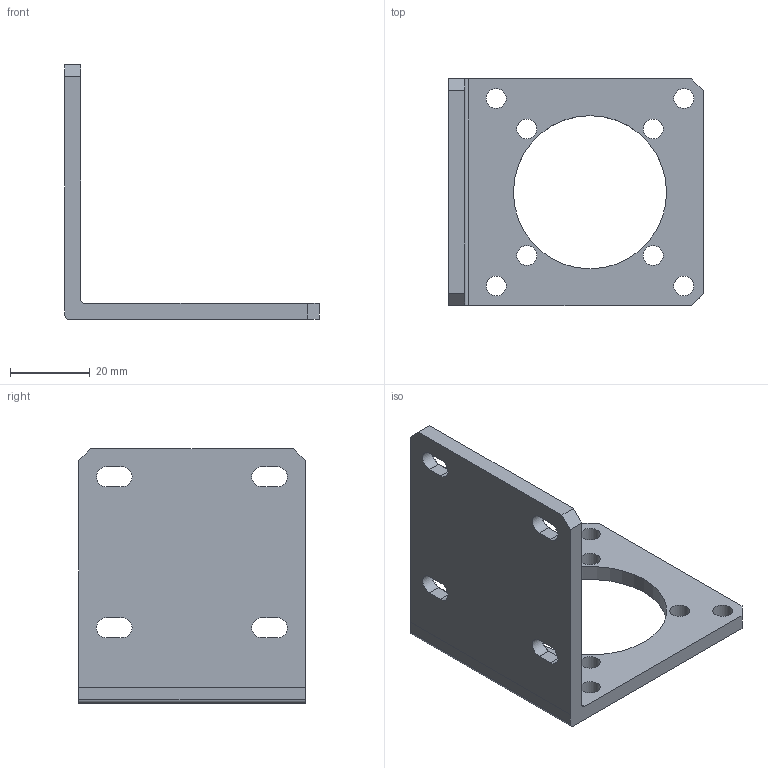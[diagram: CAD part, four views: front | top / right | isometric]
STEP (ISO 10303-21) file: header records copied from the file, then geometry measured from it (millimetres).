
FILE_DESCRIPTION(/* description */ ('Alibre Inc.'),/* implementation_level */ '2;1');
FILE_NAME(/* name */ 'export0',/* time_stamp */ '2014-04-22T09:39:33-06:00',/* author */ (''),/* organization */ (''),/* preprocessor_version */ 'ST-DEVELOPER v14',/* originating_system */ 'Alibre',/* authorisation */ '');
FILE_SCHEMA (('CONFIG_CONTROL_DESIGN'));
Length unit declared in the file: centimetre
Products named in the file (1): ID_1
Bounding box: 64.04 x 57.02 x 64 mm (x, y, z)
Volume: 22382.9 mm3; surface area: 13853.7 mm2
Topology: 1 solids, 1 shells, 58 faces, 152 edges, 96 vertices
Faces by surface type: plane 31, cylinder 19, cone 8
Full cylindrical faces by diameter (mm): 5 x8, 38.5 x1
Entity records: 1831 total; most frequent: CARTESIAN_POINT 296, ORIENTED_EDGE 286, DIRECTION 273, EDGE_CURVE 143, AXIS2_PLACEMENT_3D 104, VECTOR 96, LINE 96, VERTEX_POINT 96
